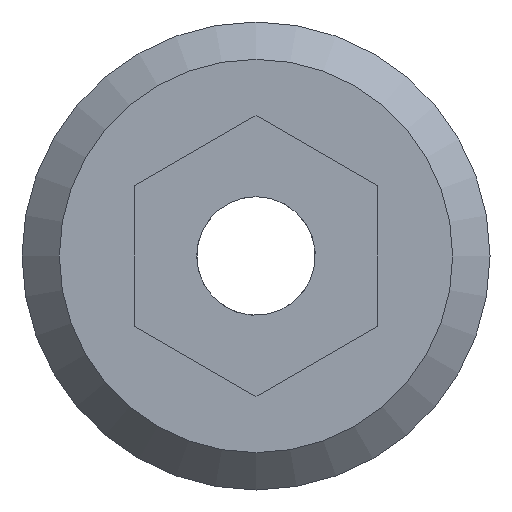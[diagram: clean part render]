
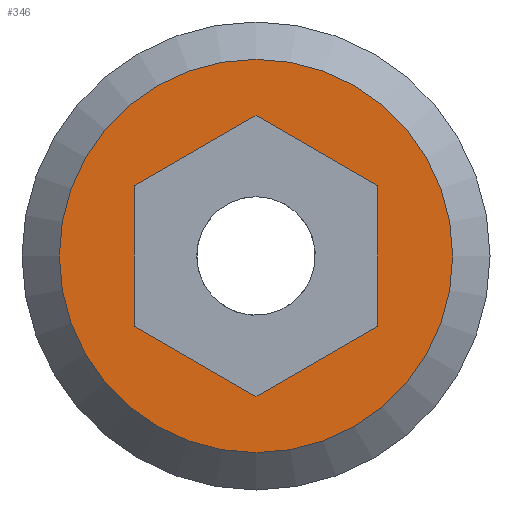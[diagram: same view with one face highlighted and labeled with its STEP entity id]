
A CAD part, front view. The second image highlights one B-rep face of the part: STEP entity #346.
In plain terms, the highlighted planar face has unit normal (0, -1, 0).
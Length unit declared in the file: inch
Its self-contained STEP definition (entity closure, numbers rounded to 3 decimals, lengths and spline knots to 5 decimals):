
#26=FACE_BOUND('',#89,.T.);
#43=CIRCLE('',#393,0.126);
#66=FACE_OUTER_BOUND('',#88,.T.);
#88=EDGE_LOOP('',(#293));
#89=EDGE_LOOP('',(#294,#295,#296,#297,#298,#299));
#95=LINE('',#524,#119);
#99=LINE('',#532,#123);
#102=LINE('',#538,#126);
#105=LINE('',#544,#129);
#108=LINE('',#550,#132);
#111=LINE('',#555,#135);
#119=VECTOR('',#412,0.3937);
#123=VECTOR('',#418,0.3937);
#126=VECTOR('',#423,0.3937);
#129=VECTOR('',#428,0.3937);
#132=VECTOR('',#433,0.3937);
#135=VECTOR('',#438,0.3937);
#143=VERTEX_POINT('',#522);
#144=VERTEX_POINT('',#523);
#147=VERTEX_POINT('',#531);
#149=VERTEX_POINT('',#537);
#151=VERTEX_POINT('',#543);
#153=VERTEX_POINT('',#549);
#168=VERTEX_POINT('',#593);
#177=EDGE_CURVE('',#143,#144,#95,.T.);
#181=EDGE_CURVE('',#147,#143,#99,.T.);
#184=EDGE_CURVE('',#149,#147,#102,.T.);
#187=EDGE_CURVE('',#151,#149,#105,.T.);
#190=EDGE_CURVE('',#153,#151,#108,.T.);
#193=EDGE_CURVE('',#144,#153,#111,.T.);
#211=EDGE_CURVE('',#168,#168,#43,.T.);
#293=ORIENTED_EDGE('',*,*,#211,.F.);
#294=ORIENTED_EDGE('',*,*,#177,.T.);
#295=ORIENTED_EDGE('',*,*,#193,.T.);
#296=ORIENTED_EDGE('',*,*,#190,.T.);
#297=ORIENTED_EDGE('',*,*,#187,.T.);
#298=ORIENTED_EDGE('',*,*,#184,.T.);
#299=ORIENTED_EDGE('',*,*,#181,.T.);
#330=PLANE('',#399);
#346=ADVANCED_FACE('',(#66,#26),#330,.T.);
#393=AXIS2_PLACEMENT_3D('',#594,#485,#486);
#399=AXIS2_PLACEMENT_3D('',#606,#499,#500);
#412=DIRECTION('',(0.866,0.,-0.5));
#418=DIRECTION('',(0.866,0.,0.5));
#423=DIRECTION('',(0.,0.,1.));
#428=DIRECTION('',(-0.866,0.,0.5));
#433=DIRECTION('',(-0.866,0.,-0.5));
#438=DIRECTION('',(0.,0.,-1.));
#485=DIRECTION('center_axis',(0.,1.,0.));
#486=DIRECTION('ref_axis',(0.,0.,1.));
#499=DIRECTION('center_axis',(0.,-1.,0.));
#500=DIRECTION('ref_axis',(0.,0.,-1.));
#522=CARTESIAN_POINT('',(0.,0.,0.09007));
#523=CARTESIAN_POINT('',(0.078,0.,0.04503));
#524=CARTESIAN_POINT('',(0.02773,0.,0.07406));
#531=CARTESIAN_POINT('',(-0.078,0.,0.04503));
#532=CARTESIAN_POINT('',(-0.06673,0.,0.05154));
#537=CARTESIAN_POINT('',(-0.078,0.,-0.04503));
#538=CARTESIAN_POINT('',(-0.078,0.,-0.04152));
#543=CARTESIAN_POINT('',(0.,0.,-0.09007));
#544=CARTESIAN_POINT('',(-0.01127,0.,-0.08356));
#549=CARTESIAN_POINT('',(0.078,0.,-0.04503));
#550=CARTESIAN_POINT('',(0.05027,0.,-0.06104));
#555=CARTESIAN_POINT('',(0.078,0.,0.00352));
#593=CARTESIAN_POINT('',(0.,0.,-0.126));
#594=CARTESIAN_POINT('Origin',(0.,0.,0.));
#606=CARTESIAN_POINT('Origin',(0.,0.,-0.038));
